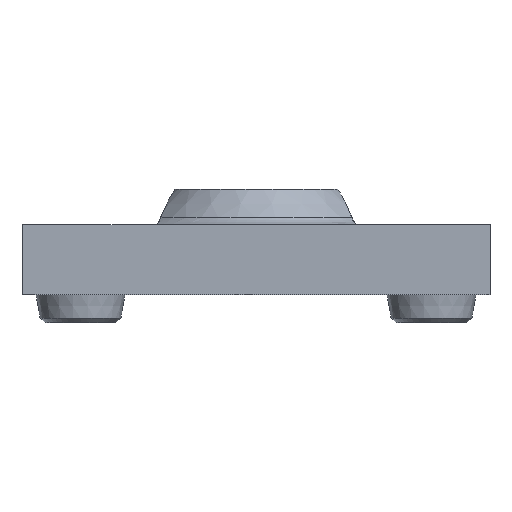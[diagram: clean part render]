
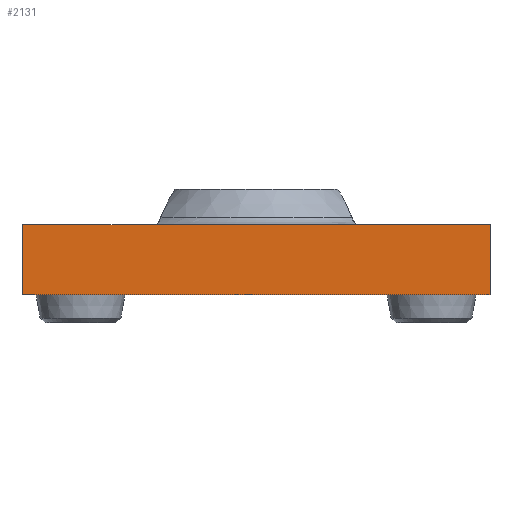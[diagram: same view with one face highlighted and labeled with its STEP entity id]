
A CAD part, front view. The second image highlights one B-rep face of the part: STEP entity #2131.
In plain terms, the highlighted planar face has unit normal (0, -1, 0).
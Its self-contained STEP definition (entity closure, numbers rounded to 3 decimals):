
#97=PLANE('',#2341);
#235=FACE_OUTER_BOUND('',#365,.T.);
#365=EDGE_LOOP('',(#1849,#1850,#1851,#1852));
#673=LINE('',#6678,#805);
#676=LINE('',#6683,#808);
#694=LINE('',#6845,#826);
#695=LINE('',#6847,#827);
#805=VECTOR('',#2735,10.);
#808=VECTOR('',#2740,10.);
#826=VECTOR('',#2838,10.);
#827=VECTOR('',#2841,10.);
#997=VERTEX_POINT('',#6675);
#998=VERTEX_POINT('',#6677);
#999=VERTEX_POINT('',#6681);
#1033=VERTEX_POINT('',#6843);
#1273=EDGE_CURVE('',#998,#997,#673,.T.);
#1276=EDGE_CURVE('',#999,#997,#676,.T.);
#1330=EDGE_CURVE('',#1033,#999,#694,.T.);
#1331=EDGE_CURVE('',#1033,#998,#695,.T.);
#1849=ORIENTED_EDGE('',*,*,#1331,.T.);
#1850=ORIENTED_EDGE('',*,*,#1273,.T.);
#1851=ORIENTED_EDGE('',*,*,#1276,.F.);
#1852=ORIENTED_EDGE('',*,*,#1330,.F.);
#2131=ADVANCED_FACE('',(#235),#97,.T.);
#2341=AXIS2_PLACEMENT_3D('',#6846,#2839,#2840);
#2735=DIRECTION('',(0.,0.,1.));
#2740=DIRECTION('',(1.,0.,0.));
#2838=DIRECTION('',(0.,0.,1.));
#2839=DIRECTION('center_axis',(0.,-1.,0.));
#2840=DIRECTION('ref_axis',(1.,0.,0.));
#2841=DIRECTION('',(1.,0.,0.));
#6675=CARTESIAN_POINT('',(0.,-42.533,48.875));
#6677=CARTESIAN_POINT('',(0.,-42.533,42.875));
#6678=CARTESIAN_POINT('',(0.,-42.533,42.875));
#6681=CARTESIAN_POINT('',(-40.,-42.533,48.875));
#6683=CARTESIAN_POINT('',(-40.,-42.533,48.875));
#6843=CARTESIAN_POINT('',(-40.,-42.533,42.875));
#6845=CARTESIAN_POINT('',(-40.,-42.533,42.875));
#6846=CARTESIAN_POINT('Origin',(-40.,-42.533,42.875));
#6847=CARTESIAN_POINT('',(-40.,-42.533,42.875));
